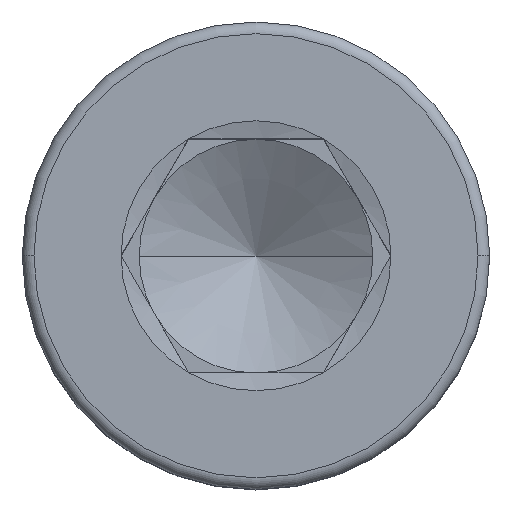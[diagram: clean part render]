
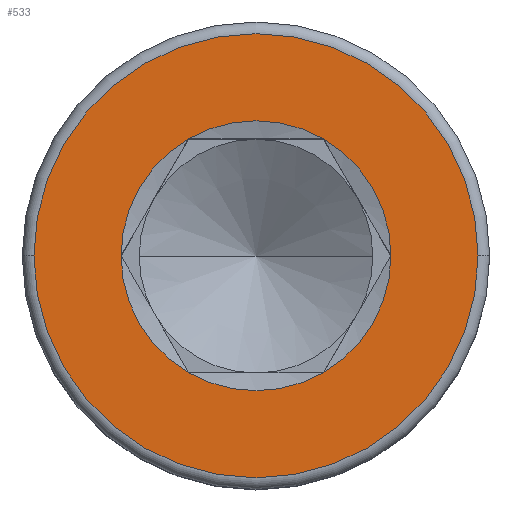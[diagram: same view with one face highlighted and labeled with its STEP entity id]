
A CAD part, top view. The second image highlights one B-rep face of the part: STEP entity #533.
In plain terms, the highlighted planar face has unit normal (0, 0, 1).
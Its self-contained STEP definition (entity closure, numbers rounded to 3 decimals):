
#24 = DIRECTION ( 'NONE',  ( 1., 0., 0. ) ) ;
#95 = DIRECTION ( 'NONE',  ( 0., 0., 1. ) ) ;
#127 = CARTESIAN_POINT ( 'NONE',  ( -4.75, 0., 6. ) ) ;
#162 = CIRCLE ( 'NONE', #1032, 2.887 ) ;
#173 = FACE_OUTER_BOUND ( 'NONE', #654, .T. ) ;
#179 = CARTESIAN_POINT ( 'NONE',  ( 0., 0., 6. ) ) ;
#196 = VERTEX_POINT ( 'NONE', #363 ) ;
#212 = CIRCLE ( 'NONE', #689, 4.75 ) ;
#236 = VERTEX_POINT ( 'NONE', #626 ) ;
#257 = CARTESIAN_POINT ( 'NONE',  ( 1.443, -2.5, 6. ) ) ;
#261 = DIRECTION ( 'NONE',  ( 1., 0., 0. ) ) ;
#281 = EDGE_CURVE ( 'NONE', #236, #407, #716, .T. ) ;
#293 = CIRCLE ( 'NONE', #1486, 2.887 ) ;
#326 = EDGE_CURVE ( 'NONE', #1498, #732, #1307, .T. ) ;
#363 = CARTESIAN_POINT ( 'NONE',  ( -1.443, 2.5, 6. ) ) ;
#389 = DIRECTION ( 'NONE',  ( 0., 0., 1. ) ) ;
#399 = EDGE_LOOP ( 'NONE', ( #1663, #901, #935, #1117, #1194, #630 ) ) ;
#407 = VERTEX_POINT ( 'NONE', #257 ) ;
#430 = CARTESIAN_POINT ( 'NONE',  ( 0., 0., 6. ) ) ;
#441 = DIRECTION ( 'NONE',  ( 0., 0., 1. ) ) ;
#459 = DIRECTION ( 'NONE',  ( 0., 0., 1. ) ) ;
#485 = DIRECTION ( 'NONE',  ( 1., 0., 0. ) ) ;
#493 = CARTESIAN_POINT ( 'NONE',  ( 0., 0., 6. ) ) ;
#499 = CARTESIAN_POINT ( 'NONE',  ( 2.887, 0., 6. ) ) ;
#533 = ADVANCED_FACE ( 'NONE', ( #173, #960 ), #673, .T. ) ;
#538 = CARTESIAN_POINT ( 'NONE',  ( 0., 0., 6. ) ) ;
#555 = AXIS2_PLACEMENT_3D ( 'NONE', #538, #932, #1317 ) ;
#571 = DIRECTION ( 'NONE',  ( 1., 0., 0. ) ) ;
#590 = EDGE_CURVE ( 'NONE', #747, #196, #665, .T. ) ;
#616 = CARTESIAN_POINT ( 'NONE',  ( 0., 0., 6. ) ) ;
#626 = CARTESIAN_POINT ( 'NONE',  ( -1.443, -2.5, 6. ) ) ;
#630 = ORIENTED_EDGE ( 'NONE', *, *, #590, .F. ) ;
#654 = EDGE_LOOP ( 'NONE', ( #1566, #834 ) ) ;
#665 = CIRCLE ( 'NONE', #1172, 2.887 ) ;
#673 = PLANE ( 'NONE',  #1334 ) ;
#689 = AXIS2_PLACEMENT_3D ( 'NONE', #430, #1578, #24 ) ;
#716 = CIRCLE ( 'NONE', #942, 2.887 ) ;
#732 = VERTEX_POINT ( 'NONE', #1543 ) ;
#747 = VERTEX_POINT ( 'NONE', #1015 ) ;
#755 = CIRCLE ( 'NONE', #941, 2.887 ) ;
#798 = VERTEX_POINT ( 'NONE', #884 ) ;
#834 = ORIENTED_EDGE ( 'NONE', *, *, #326, .T. ) ;
#877 = DIRECTION ( 'NONE',  ( 0., 0., 1. ) ) ;
#884 = CARTESIAN_POINT ( 'NONE',  ( -2.887, 0., 6. ) ) ;
#890 = DIRECTION ( 'NONE',  ( 1., 0., 0. ) ) ;
#901 = ORIENTED_EDGE ( 'NONE', *, *, #1169, .F. ) ;
#926 = EDGE_CURVE ( 'NONE', #798, #236, #1006, .T. ) ;
#932 = DIRECTION ( 'NONE',  ( 0., 0., 1. ) ) ;
#935 = ORIENTED_EDGE ( 'NONE', *, *, #281, .F. ) ;
#941 = AXIS2_PLACEMENT_3D ( 'NONE', #493, #1262, #1538 ) ;
#942 = AXIS2_PLACEMENT_3D ( 'NONE', #1521, #877, #1394 ) ;
#960 = FACE_BOUND ( 'NONE', #399, .T. ) ;
#1006 = CIRCLE ( 'NONE', #1227, 2.887 ) ;
#1015 = CARTESIAN_POINT ( 'NONE',  ( 1.443, 2.5, 6. ) ) ;
#1032 = AXIS2_PLACEMENT_3D ( 'NONE', #179, #389, #261 ) ;
#1051 = VERTEX_POINT ( 'NONE', #499 ) ;
#1077 = EDGE_CURVE ( 'NONE', #1051, #747, #293, .T. ) ;
#1113 = CARTESIAN_POINT ( 'NONE',  ( 0., 0., 6. ) ) ;
#1117 = ORIENTED_EDGE ( 'NONE', *, *, #926, .F. ) ;
#1169 = EDGE_CURVE ( 'NONE', #407, #1051, #755, .T. ) ;
#1172 = AXIS2_PLACEMENT_3D ( 'NONE', #616, #1398, #485 ) ;
#1194 = ORIENTED_EDGE ( 'NONE', *, *, #1305, .F. ) ;
#1227 = AXIS2_PLACEMENT_3D ( 'NONE', #1113, #459, #571 ) ;
#1242 = CARTESIAN_POINT ( 'NONE',  ( 0., 0., 6. ) ) ;
#1262 = DIRECTION ( 'NONE',  ( 0., 0., 1. ) ) ;
#1305 = EDGE_CURVE ( 'NONE', #196, #798, #162, .T. ) ;
#1307 = CIRCLE ( 'NONE', #555, 4.75 ) ;
#1317 = DIRECTION ( 'NONE',  ( 1., 0., 0. ) ) ;
#1334 = AXIS2_PLACEMENT_3D ( 'NONE', #1242, #441, #1474 ) ;
#1394 = DIRECTION ( 'NONE',  ( 1., 0., 0. ) ) ;
#1398 = DIRECTION ( 'NONE',  ( 0., 0., 1. ) ) ;
#1401 = CARTESIAN_POINT ( 'NONE',  ( 0., 0., 6. ) ) ;
#1474 = DIRECTION ( 'NONE',  ( 1., 0., 0. ) ) ;
#1486 = AXIS2_PLACEMENT_3D ( 'NONE', #1401, #95, #890 ) ;
#1498 = VERTEX_POINT ( 'NONE', #127 ) ;
#1521 = CARTESIAN_POINT ( 'NONE',  ( 0., 0., 6. ) ) ;
#1538 = DIRECTION ( 'NONE',  ( 1., 0., 0. ) ) ;
#1543 = CARTESIAN_POINT ( 'NONE',  ( 4.75, 0., 6. ) ) ;
#1566 = ORIENTED_EDGE ( 'NONE', *, *, #1639, .T. ) ;
#1578 = DIRECTION ( 'NONE',  ( 0., 0., 1. ) ) ;
#1639 = EDGE_CURVE ( 'NONE', #732, #1498, #212, .T. ) ;
#1663 = ORIENTED_EDGE ( 'NONE', *, *, #1077, .F. ) ;
